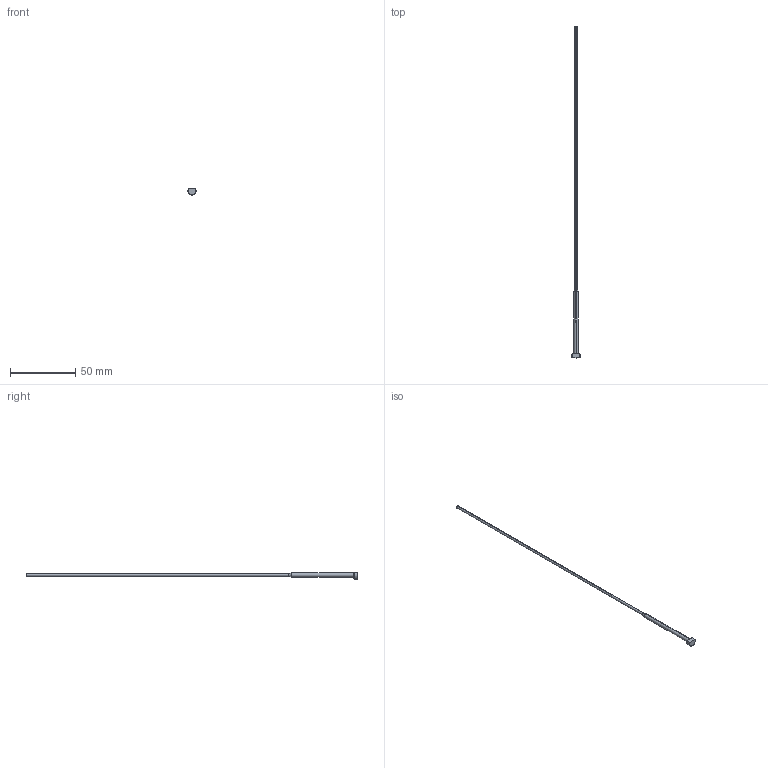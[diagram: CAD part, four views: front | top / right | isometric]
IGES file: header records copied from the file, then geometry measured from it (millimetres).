
Start section: SolidWorks IGES file using analytic representation for surfaces
Global section: file name: C:\temp\GO\Files\EPSS078L10-20-K.igs; native system: SolidWorks 2023; preprocessor: SolidWorks 2023; author: andrew.sweeney; date: 260501.171412; units: inch
Bounding box: 6.35 x 254 x 4.76 mm (x, y, z)
Surface area: 1846.1 mm2 (no closed solid volume)
Topology: 0 solids, 0 shells, 16 faces, 171 edges, 171 vertices
Faces by surface type: bspline 8, revolution 8
